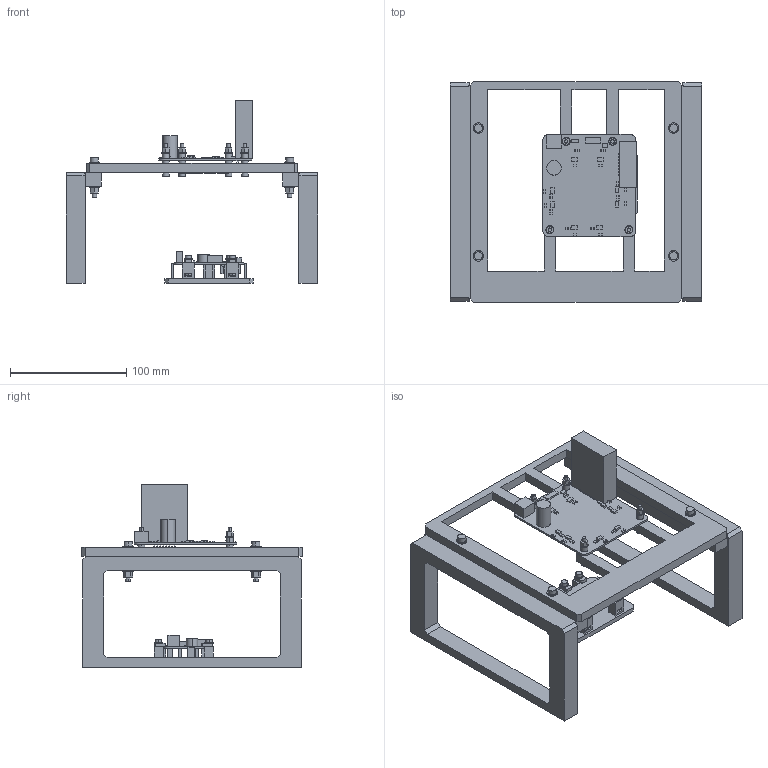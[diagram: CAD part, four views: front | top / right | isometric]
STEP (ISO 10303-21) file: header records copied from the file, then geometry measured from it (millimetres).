
FILE_DESCRIPTION (( 'STEP AP203' ), '1' );
FILE_NAME ('Overhead_4x4_assembly.step', '2026-10-15T10:45:00', ( '' ), ( '' ), 'SwSTEP 2.0', 'SolidWorks 2025', '' );
FILE_SCHEMA (( 'CONFIG_CONTROL_DESIGN' ));
Length unit declared in the file: millimetre
Products named in the file (16): REF_M4_washer; 06_receiver_edge_clip; 01_side_trestle; 05_receiver_flat_tray; REF_M3x25_screw; REF_M3x16_screw; 04_m3_rear_sleeve_6x5; REF_M4x30_screw; Overhead_4x4_assembly; 02_tx_carrier_4x4; REF_M3_nylock; REF_M3_plain_nut; REF_tx4_electronics; REF_M3_washer; REF_M4_nylock; REF_receiver_electronics
Assembly tree (58 placements, depth 2):
  Overhead_4x4_assembly
    01_side_trestle  x2
    02_tx_carrier_4x4
    REF_tx4_electronics
    04_m3_rear_sleeve_6x5  x4
    REF_M3x25_screw  x4
    REF_M3_washer  x12
    REF_M3_nylock  x4
    REF_M4x30_screw  x4
    REF_M4_washer  x8
    REF_M4_nylock  x4
    05_receiver_flat_tray
    REF_receiver_electronics
    06_receiver_edge_clip  x4
    REF_M3x16_screw  x4
    REF_M3_plain_nut  x4
Bounding box: 216 x 190 x 156.9 mm (x, y, z)
Volume: 460222.2 mm3; surface area: 171147.7 mm2
Topology: 176 solids, 176 shells, 1300 faces, 2760 edges, 1840 vertices
Faces by surface type: plane 1024, cylinder 276
Entity records: 28332 total; most frequent: CARTESIAN_POINT 4391, DIRECTION 4320, ORIENTED_EDGE 4044, EDGE_CURVE 2022, VECTOR 1766, LINE 1766, VERTEX_POINT 1348, AXIS2_PLACEMENT_3D 1277
